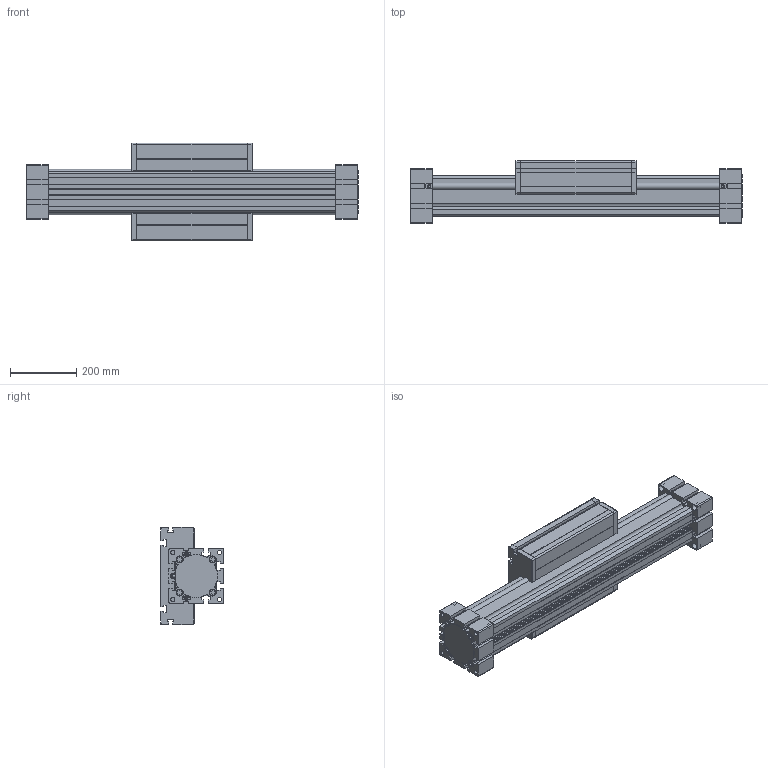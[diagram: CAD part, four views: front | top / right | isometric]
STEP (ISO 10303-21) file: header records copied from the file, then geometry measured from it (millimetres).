
FILE_DESCRIPTION (( 'STEP AP214' ), '1' );
FILE_NAME ('ELR-125.STEP', '2016-01-15T07:18:25', ( 'admin' ), ( '' ), 'SwSTEP 2.0', 'SolidWorks 2015', '' );
FILE_SCHEMA (( 'AUTOMOTIVE_DESIGN' ));
Length unit declared in the file: millimetre
Products named in the file (5): Kopie von Bahr-ELR-ELR-125  0  0 0  0 0 0 0  1510_EL125 Carriage^ELR125 S0_A; Kopie von Bahr-ELR-ELR-125  0  0 0  0 0 0 0  1510_EL125 Extrusion^ELR125 S0_0; Kopie von Bahr-ELR-ELR-125  0  0 0  0 0 0 0  1510_ELR End Block 125 (B)^ELR125 S0_ELR-125 End Block 0-0; Kopie von Bahr-ELR-ELR-125  0  0 0  0 0 0 0  1510_ELR End Block 125 (A)^ELR125 S0_ELR-125 End Block 0-0; ELR-125
Assembly tree (4 placements, depth 2):
  ELR-125
    Kopie von Bahr-ELR-ELR-125  0  0 0  0 0 0 0  1510_ELR End Block 125 (A)^ELR125 S0_ELR-125 End Block 0-0
    Kopie von Bahr-ELR-ELR-125  0  0 0  0 0 0 0  1510_ELR End Block 125 (B)^ELR125 S0_ELR-125 End Block 0-0
    Kopie von Bahr-ELR-ELR-125  0  0 0  0 0 0 0  1510_EL125 Extrusion^ELR125 S0_0
    Kopie von Bahr-ELR-ELR-125  0  0 0  0 0 0 0  1510_EL125 Carriage^ELR125 S0_A
Bounding box: 1004 x 190 x 295 mm (x, y, z)
Volume: 22700061.3 mm3; surface area: 1399733.9 mm2
Topology: 16 solids, 16 shells, 933 faces, 2475 edges, 1618 vertices
Faces by surface type: plane 702, cylinder 191, cone 32, torus 8
Entity records: 30663 total; most frequent: CARTESIAN_POINT 5057, ORIENTED_EDGE 4950, DIRECTION 4833, EDGE_CURVE 2475, LINE 1981, VECTOR 1981, VERTEX_POINT 1618, AXIS2_PLACEMENT_3D 1426
